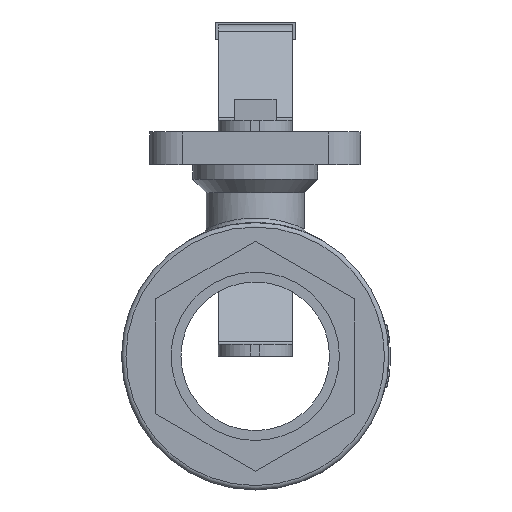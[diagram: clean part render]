
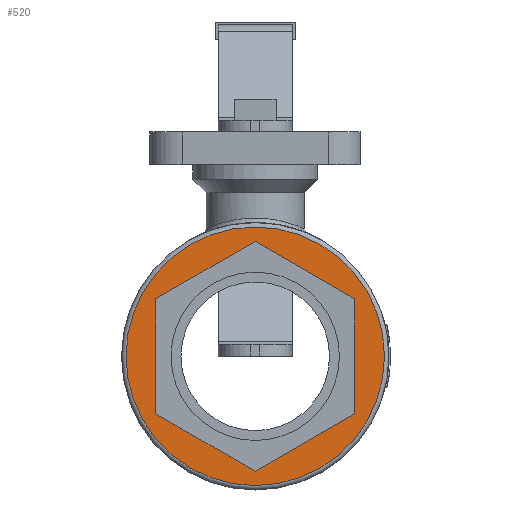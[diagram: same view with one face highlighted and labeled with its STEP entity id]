
A CAD part, left-side view. The second image highlights one B-rep face of the part: STEP entity #520.
In plain terms, the highlighted planar face has unit normal (-1, 0, 0).
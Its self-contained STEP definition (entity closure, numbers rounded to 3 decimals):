
#520 = ADVANCED_FACE( '', ( #1137, #1138 ), #1139, .T. );
#1137 = FACE_OUTER_BOUND( '', #4150, .T. );
#1138 = FACE_BOUND( '', #4151, .T. );
#1139 = PLANE( '', #4152 );
#4150 = EDGE_LOOP( '', ( #6091 ) );
#4151 = EDGE_LOOP( '', ( #6092, #6093, #6094, #6095, #6096, #6097 ) );
#4152 = AXIS2_PLACEMENT_3D( '', #6098, #6099, #6100 );
#6091 = ORIENTED_EDGE( '', *, *, #6997, .T. );
#6092 = ORIENTED_EDGE( '', *, *, #7198, .F. );
#6093 = ORIENTED_EDGE( '', *, *, #7199, .F. );
#6094 = ORIENTED_EDGE( '', *, *, #7200, .F. );
#6095 = ORIENTED_EDGE( '', *, *, #7201, .F. );
#6096 = ORIENTED_EDGE( '', *, *, #7202, .F. );
#6097 = ORIENTED_EDGE( '', *, *, #7117, .F. );
#6098 = CARTESIAN_POINT( '', ( -39., 8.375, 14.506 ) );
#6099 = DIRECTION( '', ( -1., 0., 0. ) );
#6100 = DIRECTION( '', ( 0., -1., 0. ) );
#6997 = EDGE_CURVE( '', #7926, #7926, #7927, .T. );
#7117 = EDGE_CURVE( '', #8098, #8100, #8101, .T. );
#7198 = EDGE_CURVE( '', #8207, #8098, #8208, .T. );
#7199 = EDGE_CURVE( '', #8209, #8207, #8210, .T. );
#7200 = EDGE_CURVE( '', #8211, #8209, #8212, .T. );
#7201 = EDGE_CURVE( '', #8213, #8211, #8214, .T. );
#7202 = EDGE_CURVE( '', #8100, #8213, #8215, .T. );
#7926 = VERTEX_POINT( '', #11620 );
#7927 = CIRCLE( '', #11621, 43.5 );
#8098 = VERTEX_POINT( '', #12001 );
#8100 = VERTEX_POINT( '', #12004 );
#8101 = LINE( '', #12005, #12006 );
#8207 = VERTEX_POINT( '', #12484 );
#8208 = LINE( '', #12485, #12486 );
#8209 = VERTEX_POINT( '', #12487 );
#8210 = LINE( '', #12488, #12489 );
#8211 = VERTEX_POINT( '', #12490 );
#8212 = LINE( '', #12491, #12492 );
#8213 = VERTEX_POINT( '', #12493 );
#8214 = LINE( '', #12494, #12495 );
#8215 = LINE( '', #12496, #12497 );
#11620 = CARTESIAN_POINT( '', ( -39., -43.5, 0. ) );
#11621 = AXIS2_PLACEMENT_3D( '', #12802, #12803, #12804 );
#12001 = CARTESIAN_POINT( '', ( -39., 0., 38.682 ) );
#12004 = CARTESIAN_POINT( '', ( -39., 33.5, 19.341 ) );
#12005 = CARTESIAN_POINT( '', ( -39., 0., 38.682 ) );
#12006 = VECTOR( '', #12890, 1000. );
#12484 = CARTESIAN_POINT( '', ( -39., -33.5, 19.341 ) );
#12485 = CARTESIAN_POINT( '', ( -39., -33.5, 19.341 ) );
#12486 = VECTOR( '', #12955, 1000. );
#12487 = CARTESIAN_POINT( '', ( -39., -33.5, -19.341 ) );
#12488 = CARTESIAN_POINT( '', ( -39., -33.5, -19.341 ) );
#12489 = VECTOR( '', #12956, 1000. );
#12490 = CARTESIAN_POINT( '', ( -39., 0., -38.682 ) );
#12491 = CARTESIAN_POINT( '', ( -39., 0., -38.682 ) );
#12492 = VECTOR( '', #12957, 1000. );
#12493 = CARTESIAN_POINT( '', ( -39., 33.5, -19.341 ) );
#12494 = CARTESIAN_POINT( '', ( -39., 33.5, -19.341 ) );
#12495 = VECTOR( '', #12958, 1000. );
#12496 = CARTESIAN_POINT( '', ( -39., 33.5, 19.341 ) );
#12497 = VECTOR( '', #12959, 1000. );
#12802 = CARTESIAN_POINT( '', ( -39., 0., 0. ) );
#12803 = DIRECTION( '', ( -1., 0., 0. ) );
#12804 = DIRECTION( '', ( 0., -1., 0. ) );
#12890 = DIRECTION( '', ( 0., 0.866, -0.5 ) );
#12955 = DIRECTION( '', ( 0., 0.866, 0.5 ) );
#12956 = DIRECTION( '', ( 0., 0., 1. ) );
#12957 = DIRECTION( '', ( 0., -0.866, 0.5 ) );
#12958 = DIRECTION( '', ( 0., -0.866, -0.5 ) );
#12959 = DIRECTION( '', ( 0., 0., -1. ) );
